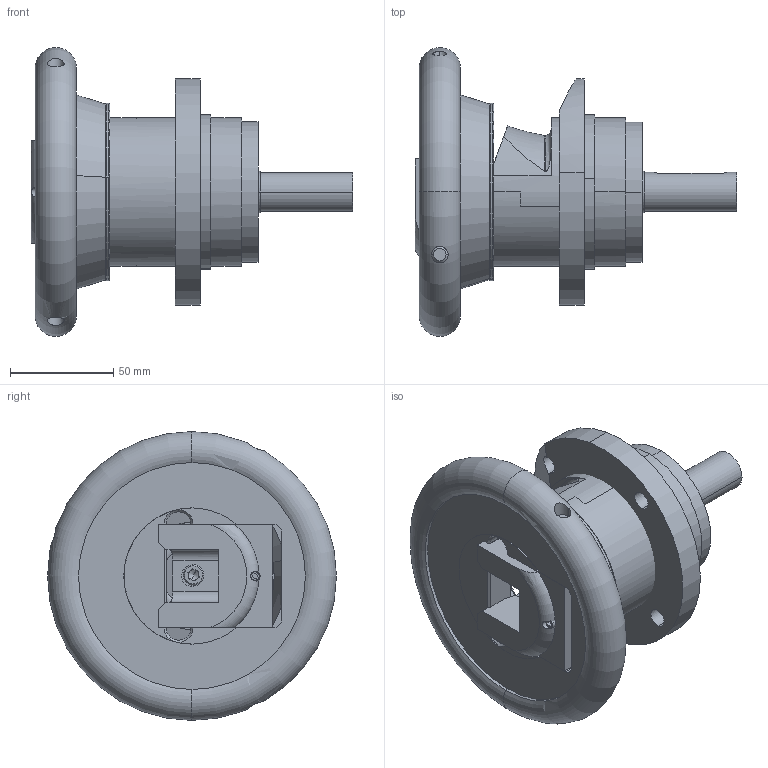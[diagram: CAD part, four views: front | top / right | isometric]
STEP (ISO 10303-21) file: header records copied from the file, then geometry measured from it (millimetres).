
FILE_DESCRIPTION((''),'2;1');
FILE_NAME('FLW_19-25_ASM','2021-02-10T11:26:01',('Eric.Chung'),(''),'CREO PARAMETRIC BY PTC INC, 2018020','CREO PARAMETRIC BY PTC INC, 2018020','');
FILE_SCHEMA(('CONFIG_CONTROL_DESIGN'));
Length unit declared in the file: millimetre
Products named in the file (18): MINW_____ANY_2_1; SOCKET_HEAD_CAP_SCREW_AM_-147_1; SOCKET_HEAD_CAP_SCREW_AM_-148_1; MIN___L_ANY_1_1; RADIAL_BALL_BEARING_68_SKF_SK_1; SOCKET_SET_SCREW_HALF_DOG_POI_1; MIN_____M_ANY_2_1; MIN_M___ANY_1_1; MIMPIO___Y_ANY_3_1; BASIC_INTERNAL_RETAINING_RING_1; BASIC_EXTERNAL_RETAINING_RING_1; MIN___P_ANY_1_1; MIN_B___ANY_1_1; PIO-_MIN_ANY_ASM_1_1_ASM; _PIO-_MIN_1_1; FL_2_1; PIO-_MIN_ASM_4_1_ASM; FLW_19-25_ASM
Assembly tree (21 placements, depth 4):
  FLW_19-25_ASM
    PIO-_MIN_ASM_4_1_ASM
      PIO-_MIN_ANY_ASM_1_1_ASM
        MINW_____ANY_2_1
        SOCKET_HEAD_CAP_SCREW_AM_-147_1  x4
        SOCKET_HEAD_CAP_SCREW_AM_-148_1
        MIN___L_ANY_1_1
        RADIAL_BALL_BEARING_68_SKF_SK_1  x2
        SOCKET_SET_SCREW_HALF_DOG_POI_1
        MIN_____M_ANY_2_1
        MIN_M___ANY_1_1
        MIMPIO___Y_ANY_3_1
        BASIC_INTERNAL_RETAINING_RING_1
        BASIC_EXTERNAL_RETAINING_RING_1
        MIN___P_ANY_1_1
        MIN_B___ANY_1_1
      _PIO-_MIN_1_1
      FL_2_1
Bounding box: 156 x 139.96 x 140 mm (x, y, z)
Volume: 646730.3 mm3; surface area: 170052.7 mm2
Topology: 18 solids, 18 shells, 491 faces, 1157 edges, 721 vertices
Faces by surface type: cylinder 195, plane 175, cone 63, torus 54, sphere 4
Entity records: 12226 total; most frequent: CARTESIAN_POINT 2472, DIRECTION 2201, ORIENTED_EDGE 1826, EDGE_CURVE 913, AXIS2_PLACEMENT_3D 905, VERTEX_POINT 590, CIRCLE 464, EDGE_LOOP 457
